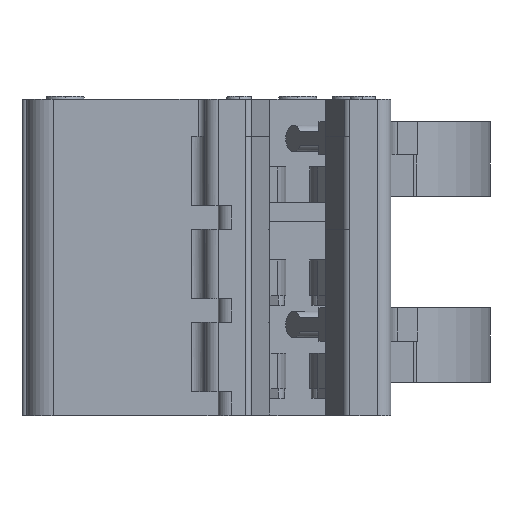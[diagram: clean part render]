
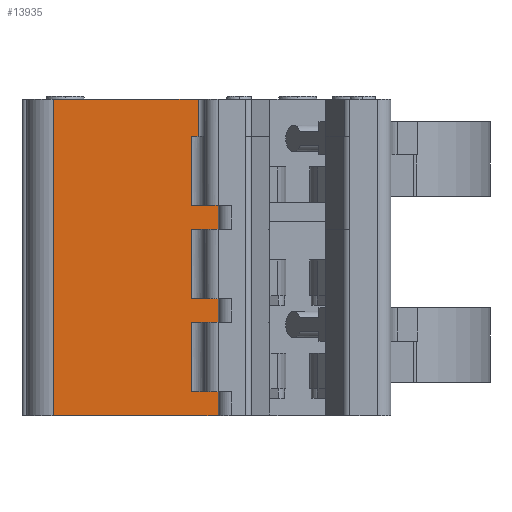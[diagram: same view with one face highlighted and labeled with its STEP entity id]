
A CAD part, left-side view. The second image highlights one B-rep face of the part: STEP entity #13935.
In plain terms, the highlighted planar face has unit normal (-1, 0, 0).
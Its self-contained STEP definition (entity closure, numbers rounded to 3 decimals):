
#1539=DIRECTION('',(0.,1.,0.));
#1540=VECTOR('',#1539,5.45);
#1541=CARTESIAN_POINT('',(11.95,7.25,6.1));
#1542=LINE('',#1541,#1540);
#2329=DIRECTION('',(0.,-1.,0.));
#2330=VECTOR('',#2329,6.2);
#2331=CARTESIAN_POINT('',(11.95,12.7,-5.8));
#2332=LINE('',#2331,#2330);
#3479=CARTESIAN_POINT('',(11.951,7.5,4.7));
#3480=CARTESIAN_POINT('',(11.951,7.496,4.7));
#3481=CARTESIAN_POINT('',(11.95,7.489,4.7));
#3482=CARTESIAN_POINT('',(11.95,7.478,4.7));
#3483=CARTESIAN_POINT('',(11.95,7.47,4.7));
#3484=CARTESIAN_POINT('',(11.95,7.466,4.7));
#3497=DIRECTION('',(0.,0.,1.));
#3498=VECTOR('',#3497,2.6);
#3499=CARTESIAN_POINT('',(11.951,7.499,2.1));
#3500=LINE('',#3499,#3498);
#3501=DIRECTION('',(0.,1.,0.));
#3502=VECTOR('',#3501,0.216);
#3503=CARTESIAN_POINT('',(11.95,7.25,4.7));
#3504=LINE('',#3503,#3502);
#3505=DIRECTION('',(0.,-1.,0.));
#3506=VECTOR('',#3505,0.999);
#3507=CARTESIAN_POINT('',(11.951,7.499,2.1));
#3508=LINE('',#3507,#3506);
#3509=DIRECTION('',(0.,1.,0.));
#3510=VECTOR('',#3509,0.999);
#3511=CARTESIAN_POINT('',(11.951,6.5,1.2));
#3512=LINE('',#3511,#3510);
#3513=DIRECTION('',(0.,1.,0.));
#3514=VECTOR('',#3513,1.001);
#3515=CARTESIAN_POINT('',(11.95,6.5,-2.3));
#3516=LINE('',#3515,#3514);
#3525=DIRECTION('',(0.,0.,-1.));
#3526=VECTOR('',#3525,1.4);
#3527=CARTESIAN_POINT('',(11.95,12.7,6.1));
#3528=LINE('',#3527,#3526);
#3529=DIRECTION('',(0.,0.,-1.));
#3530=VECTOR('',#3529,7.);
#3531=CARTESIAN_POINT('',(11.95,12.7,4.7));
#3532=LINE('',#3531,#3530);
#3533=DIRECTION('',(0.,0.,-1.));
#3534=VECTOR('',#3533,3.5);
#3535=CARTESIAN_POINT('',(11.95,12.7,-2.3));
#3536=LINE('',#3535,#3534);
#3577=DIRECTION('',(0.,0.,1.));
#3578=VECTOR('',#3577,1.4);
#3579=CARTESIAN_POINT('',(11.95,7.25,4.7));
#3580=LINE('',#3579,#3578);
#3668=DIRECTION('',(0.,0.,1.));
#3669=VECTOR('',#3668,0.9);
#3670=CARTESIAN_POINT('',(11.95,6.5,-2.3));
#3671=LINE('',#3670,#3669);
#3680=DIRECTION('',(0.,0.,1.));
#3681=VECTOR('',#3680,0.9);
#3682=CARTESIAN_POINT('',(11.951,6.5,1.2));
#3683=LINE('',#3682,#3681);
#3831=DIRECTION('',(0.,1.,0.));
#3832=VECTOR('',#3831,0.999);
#3833=CARTESIAN_POINT('',(11.951,6.5,-1.4));
#3834=LINE('',#3833,#3832);
#3881=DIRECTION('',(0.,0.,1.));
#3882=VECTOR('',#3881,2.6);
#3883=CARTESIAN_POINT('',(11.951,7.499,-1.4));
#3884=LINE('',#3883,#3882);
#3909=CARTESIAN_POINT('',(11.951,7.499,1.2));
#4045=DIRECTION('',(0.,1.,0.));
#4046=VECTOR('',#4045,1.);
#4047=CARTESIAN_POINT('',(11.95,6.5,-4.9));
#4048=LINE('',#4047,#4046);
#4066=DIRECTION('',(0.,0.,1.));
#4067=VECTOR('',#4066,0.9);
#4068=CARTESIAN_POINT('',(11.95,6.5,-5.8));
#4069=LINE('',#4068,#4067);
#4074=DIRECTION('',(0.,0.,1.));
#4075=VECTOR('',#4074,2.6);
#4076=CARTESIAN_POINT('',(11.95,7.5,-4.9));
#4077=LINE('',#4076,#4075);
#7359=CARTESIAN_POINT('',(11.95,7.25,4.7));
#7360=CARTESIAN_POINT('',(11.95,7.466,4.7));
#7361=VERTEX_POINT('',#7359);
#7362=VERTEX_POINT('',#7360);
#7459=CARTESIAN_POINT('',(11.95,7.25,6.1));
#7460=VERTEX_POINT('',#7459);
#7461=CARTESIAN_POINT('',(11.95,12.7,6.1));
#7462=VERTEX_POINT('',#7461);
#8264=VERTEX_POINT('',#3909);
#8265=CARTESIAN_POINT('',(11.951,6.5,1.2));
#8266=VERTEX_POINT('',#8265);
#8295=CARTESIAN_POINT('',(11.951,6.5,2.1));
#8296=VERTEX_POINT('',#8295);
#8307=CARTESIAN_POINT('',(11.951,7.499,2.1));
#8308=VERTEX_POINT('',#8307);
#8309=CARTESIAN_POINT('',(11.95,12.7,4.7));
#8310=CARTESIAN_POINT('',(11.95,12.7,-2.3));
#8311=VERTEX_POINT('',#8309);
#8312=VERTEX_POINT('',#8310);
#8313=VERTEX_POINT('',#3479);
#8314=CARTESIAN_POINT('',(11.951,7.499,-1.4));
#8315=VERTEX_POINT('',#8314);
#8316=CARTESIAN_POINT('',(11.951,6.5,-1.4));
#8317=VERTEX_POINT('',#8316);
#8318=CARTESIAN_POINT('',(11.95,6.5,-2.3));
#8319=VERTEX_POINT('',#8318);
#8320=CARTESIAN_POINT('',(11.95,7.501,-2.3));
#8321=VERTEX_POINT('',#8320);
#8322=CARTESIAN_POINT('',(11.95,7.5,-4.9));
#8323=VERTEX_POINT('',#8322);
#8324=CARTESIAN_POINT('',(11.95,6.5,-4.9));
#8325=VERTEX_POINT('',#8324);
#8326=CARTESIAN_POINT('',(11.95,6.5,-5.8));
#8327=VERTEX_POINT('',#8326);
#8328=CARTESIAN_POINT('',(11.95,12.7,-5.8));
#8329=VERTEX_POINT('',#8328);
#13894=CARTESIAN_POINT('',(11.95,9.6,-4.05));
#13895=DIRECTION('',(1.,0.,0.));
#13896=DIRECTION('',(0.,-1.,0.));
#13897=AXIS2_PLACEMENT_3D('',#13894,#13895,#13896);
#13898=PLANE('',#13897);
#13900=ORIENTED_EDGE('',*,*,#13899,.F.);
#13902=ORIENTED_EDGE('',*,*,#13901,.F.);
#13903=ORIENTED_EDGE('',*,*,#11134,.F.);
#13905=ORIENTED_EDGE('',*,*,#13904,.F.);
#13907=ORIENTED_EDGE('',*,*,#13906,.T.);
#13908=ORIENTED_EDGE('',*,*,#13881,.F.);
#13909=ORIENTED_EDGE('',*,*,#13889,.F.);
#13911=ORIENTED_EDGE('',*,*,#13910,.T.);
#13913=ORIENTED_EDGE('',*,*,#13912,.F.);
#13915=ORIENTED_EDGE('',*,*,#13914,.T.);
#13917=ORIENTED_EDGE('',*,*,#13916,.F.);
#13919=ORIENTED_EDGE('',*,*,#13918,.F.);
#13921=ORIENTED_EDGE('',*,*,#13920,.F.);
#13923=ORIENTED_EDGE('',*,*,#13922,.T.);
#13925=ORIENTED_EDGE('',*,*,#13924,.F.);
#13927=ORIENTED_EDGE('',*,*,#13926,.F.);
#13929=ORIENTED_EDGE('',*,*,#13928,.F.);
#13930=ORIENTED_EDGE('',*,*,#12327,.F.);
#13932=ORIENTED_EDGE('',*,*,#13931,.F.);
#13933=EDGE_LOOP('',(#13900,#13902,#13903,#13905,#13907,#13908,#13909,#13911,
#13913,#13915,#13917,#13919,#13921,#13923,#13925,#13927,#13929,#13930,#13932));
#13934=FACE_OUTER_BOUND('',#13933,.F.);
#13935=ADVANCED_FACE('',(#13934),#13898,.F.);
#3485=B_SPLINE_CURVE_WITH_KNOTS('',3,(#3479,#3480,#3481,#3482,#3483,#3484),
.UNSPECIFIED.,.F.,.F.,(4,1,1,4),(0.,0.333,0.667,1.),
.UNSPECIFIED.);
#11134=EDGE_CURVE('',#7460,#7462,#1542,.T.);
#12327=EDGE_CURVE('',#8329,#8327,#2332,.T.);
#13881=EDGE_CURVE('',#8313,#7362,#3485,.T.);
#13889=EDGE_CURVE('',#8308,#8313,#3500,.T.);
#13899=EDGE_CURVE('',#8311,#8312,#3532,.T.);
#13901=EDGE_CURVE('',#7462,#8311,#3528,.T.);
#13904=EDGE_CURVE('',#7361,#7460,#3580,.T.);
#13906=EDGE_CURVE('',#7361,#7362,#3504,.T.);
#13910=EDGE_CURVE('',#8308,#8296,#3508,.T.);
#13912=EDGE_CURVE('',#8266,#8296,#3683,.T.);
#13914=EDGE_CURVE('',#8266,#8264,#3512,.T.);
#13916=EDGE_CURVE('',#8315,#8264,#3884,.T.);
#13918=EDGE_CURVE('',#8317,#8315,#3834,.T.);
#13920=EDGE_CURVE('',#8319,#8317,#3671,.T.);
#13922=EDGE_CURVE('',#8319,#8321,#3516,.T.);
#13924=EDGE_CURVE('',#8323,#8321,#4077,.T.);
#13926=EDGE_CURVE('',#8325,#8323,#4048,.T.);
#13928=EDGE_CURVE('',#8327,#8325,#4069,.T.);
#13931=EDGE_CURVE('',#8312,#8329,#3536,.T.);
